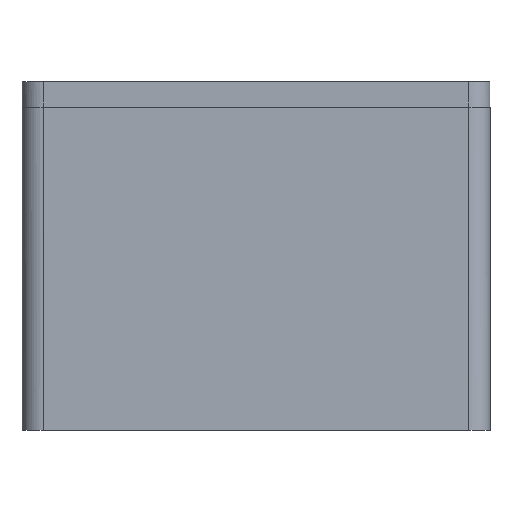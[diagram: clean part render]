
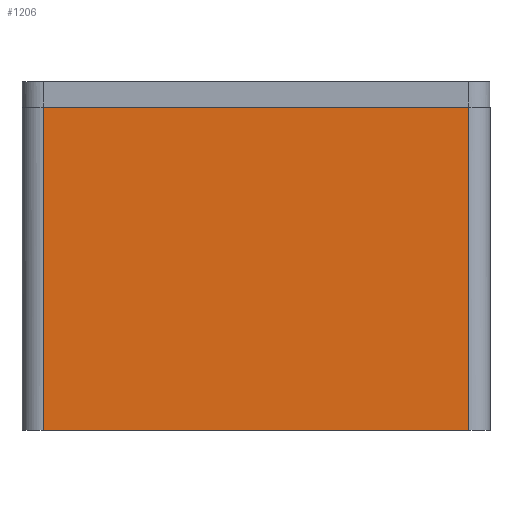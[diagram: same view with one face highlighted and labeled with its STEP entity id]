
A CAD part, front view. The second image highlights one B-rep face of the part: STEP entity #1206.
In plain terms, the highlighted planar face has unit normal (0, -1, 0).
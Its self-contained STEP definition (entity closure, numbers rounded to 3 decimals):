
#11=DIRECTION('',(0.0,0.0,1.0));
#20=DIRECTION('',(0.0,0.0,-1.0));
#24=DIRECTION('',(1.0,0.,0.0));
#25=VECTOR('',#24,20.);
#26=CARTESIAN_POINT('',(1.,0.,0.0));
#27=LINE('',#26,#25);
#28=CARTESIAN_POINT('',(21.,0.,0.0));
#29=VERTEX_POINT('',#28);
#30=VERTEX_POINT('',#26);
#31=EDGE_CURVE('',#30,#29,#27,.T.);
#681=CARTESIAN_POINT('',(1.,0.,15.2));
#685=VERTEX_POINT('',#681);
#778=CARTESIAN_POINT('',(21.,0.,15.2));
#779=VERTEX_POINT('',#778);
#782=DIRECTION('',(-1.0,0.,0.0));
#783=VECTOR('',#782,20.);
#784=LINE('',#778,#783);
#785=EDGE_CURVE('',#779,#685,#784,.T.);
#1191=DIRECTION('',(0.,-1.0,0.0));
#1192=AXIS2_PLACEMENT_3D('',#26,#1191,#24);
#1193=PLANE('',#1192);
#1194=VECTOR('',#20,15.2);
#1195=LINE('',#778,#1194);
#1196=EDGE_CURVE('',#779,#29,#1195,.T.);
#1197=ORIENTED_EDGE('',*,*,#1196,.F.);
#1198=ORIENTED_EDGE('',*,*,#31,.T.);
#1199=VECTOR('',#11,15.2);
#1200=LINE('',#26,#1199);
#1201=EDGE_CURVE('',#30,#685,#1200,.T.);
#1202=ORIENTED_EDGE('',*,*,#1201,.F.);
#1203=ORIENTED_EDGE('',*,*,#785,.T.);
#1204=EDGE_LOOP('',(#1203,#1202,#1198,#1197));
#1205=FACE_BOUND('',#1204,.T.);
#1206=ADVANCED_FACE('',(#1205),#1193,.T.);
